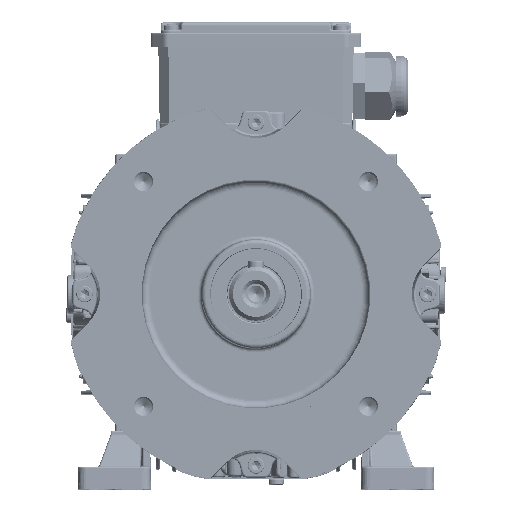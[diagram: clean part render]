
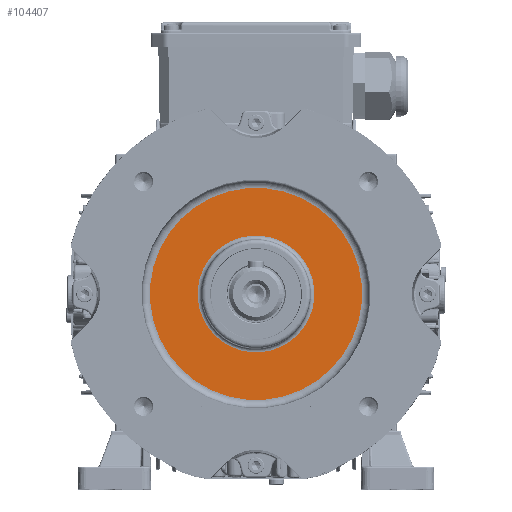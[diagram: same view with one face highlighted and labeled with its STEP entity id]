
A CAD part, top view. The second image highlights one B-rep face of the part: STEP entity #104407.
In plain terms, the highlighted planar face has unit normal (0, 0, 1).
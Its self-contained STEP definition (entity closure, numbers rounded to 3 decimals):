
#92761=PLANE('',#266246);
#104407=ADVANCED_FACE('',(#110998,#110999),#92761,.T.);
#110998=FACE_BOUND('',#123707,.T.);
#110999=FACE_BOUND('',#123708,.T.);
#123707=EDGE_LOOP('',(#178781));
#123708=EDGE_LOOP('',(#178782));
#178781=ORIENTED_EDGE('',*,*,#226741,.T.);
#178782=ORIENTED_EDGE('',*,*,#226742,.F.);
#198712=VERTEX_POINT('',#484491);
#198713=VERTEX_POINT('',#484493);
#226741=EDGE_CURVE('',#198712,#198712,#237670,.T.);
#226742=EDGE_CURVE('',#198713,#198713,#237671,.T.);
#237670=CIRCLE('',#266244,30.326);
#237671=CIRCLE('',#266245,55.086);
#266244=AXIS2_PLACEMENT_3D('',#484490,#317845,#317846);
#266245=AXIS2_PLACEMENT_3D('',#484492,#317847,#317848);
#266246=AXIS2_PLACEMENT_3D('',#484494,#317849,#317850);
#317845=DIRECTION('',(0.,0.,-1.));
#317846=DIRECTION('',(0.707,0.707,0.));
#317847=DIRECTION('',(0.,0.,-1.));
#317848=DIRECTION('',(0.707,0.707,0.));
#317849=DIRECTION('',(0.,0.,1.));
#317850=DIRECTION('',(0.707,0.707,0.));
#484490=CARTESIAN_POINT('',(0.,0.,7.5));
#484491=CARTESIAN_POINT('',(21.444,21.444,7.5));
#484492=CARTESIAN_POINT('',(0.,0.,7.5));
#484493=CARTESIAN_POINT('',(38.952,38.952,7.5));
#484494=CARTESIAN_POINT('',(-39.209,39.209,7.5));
